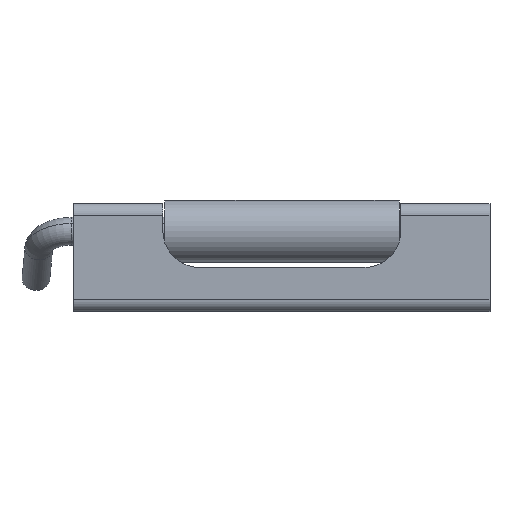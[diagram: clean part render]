
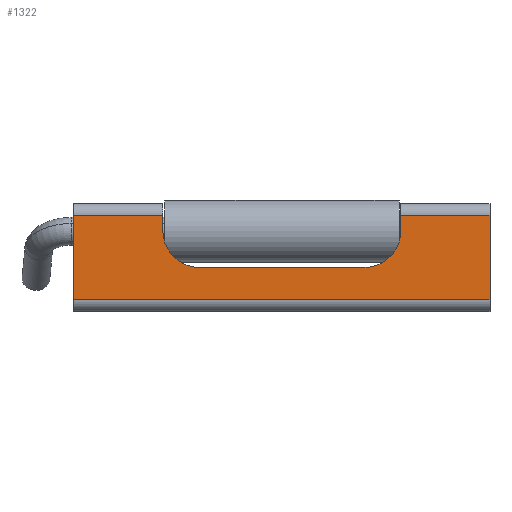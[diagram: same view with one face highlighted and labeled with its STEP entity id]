
A CAD part, front view. The second image highlights one B-rep face of the part: STEP entity #1322.
In plain terms, the highlighted planar face has unit normal (0, -1, 0).
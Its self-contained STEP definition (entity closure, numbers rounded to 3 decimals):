
#1261 = VERTEX_POINT ( 'NONE', #4355 ) ;
#1263 = EDGE_CURVE ( 'NONE', #1264, #1261, #4354, .T. ) ;
#1264 = VERTEX_POINT ( 'NONE', #4350 ) ;
#1307 = VERTEX_POINT ( 'NONE', #4402 ) ;
#1308 = ORIENTED_EDGE ( 'NONE', *, *, #1309, .T. ) ;
#1309 = EDGE_CURVE ( 'NONE', #1307, #1310, #4465, .T. ) ;
#1310 = VERTEX_POINT ( 'NONE', #4461 ) ;
#1311 = ORIENTED_EDGE ( 'NONE', *, *, #1312, .T. ) ;
#1312 = EDGE_CURVE ( 'NONE', #1310, #1313, #4460, .T. ) ;
#1313 = VERTEX_POINT ( 'NONE', #4456 ) ;
#1314 = ORIENTED_EDGE ( 'NONE', *, *, #1315, .T. ) ;
#1315 = EDGE_CURVE ( 'NONE', #1313, #1316, #4455, .T. ) ;
#1316 = VERTEX_POINT ( 'NONE', #4450 ) ;
#1317 = ORIENTED_EDGE ( 'NONE', *, *, #1318, .T. ) ;
#1318 = EDGE_CURVE ( 'NONE', #1316, #1319, #4449, .T. ) ;
#1319 = VERTEX_POINT ( 'NONE', #4445 ) ;
#1320 = ORIENTED_EDGE ( 'NONE', *, *, #1321, .T. ) ;
#1321 = EDGE_CURVE ( 'NONE', #1319, #1264, #4444, .T. ) ;
#1322 = ADVANCED_FACE ( 'NONE', ( #4440 ), #4439, .F. ) ;
#1323 = EDGE_LOOP ( 'NONE', ( #1324, #1325, #1328, #1331, #1334, #1308, #1311, #1314, #1317, #1320 ) ) ;
#1324 = ORIENTED_EDGE ( 'NONE', *, *, #1263, .T. ) ;
#1325 = ORIENTED_EDGE ( 'NONE', *, *, #1326, .T. ) ;
#1326 = EDGE_CURVE ( 'NONE', #1261, #1327, #4495, .T. ) ;
#1327 = VERTEX_POINT ( 'NONE', #4491 ) ;
#1328 = ORIENTED_EDGE ( 'NONE', *, *, #1329, .F. ) ;
#1329 = EDGE_CURVE ( 'NONE', #1330, #1327, #4490, .T. ) ;
#1330 = VERTEX_POINT ( 'NONE', #4486 ) ;
#1331 = ORIENTED_EDGE ( 'NONE', *, *, #1332, .T. ) ;
#1332 = EDGE_CURVE ( 'NONE', #1330, #1333, #4485, .T. ) ;
#1333 = VERTEX_POINT ( 'NONE', #4481 ) ;
#1334 = ORIENTED_EDGE ( 'NONE', *, *, #1335, .T. ) ;
#1335 = EDGE_CURVE ( 'NONE', #1333, #1307, #4480, .T. ) ;
#4350 = CARTESIAN_POINT ( 'NONE',  ( 0., 0., 20.8 ) ) ;
#4351 = DIRECTION ( 'NONE',  ( 0., 0., -1. ) ) ;
#4352 = VECTOR ( 'NONE', #4351, 1000. ) ;
#4353 = CARTESIAN_POINT ( 'NONE',  ( 0., 0., 2.5 ) ) ;
#4354 = LINE ( 'NONE', #4353, #4352 ) ;
#4355 = CARTESIAN_POINT ( 'NONE',  ( 0., 0., 2.5 ) ) ;
#4401 = CARTESIAN_POINT ( 'NONE',  ( 62.6, 0., 17.5 ) ) ;
#4402 = CARTESIAN_POINT ( 'NONE',  ( 70.6, 0., 17.5 ) ) ;
#4435 = DIRECTION ( 'NONE',  ( 0., 0., 1. ) ) ;
#4436 = DIRECTION ( 'NONE',  ( 0., 1., 0. ) ) ;
#4437 = AXIS2_PLACEMENT_3D ( 'NONE', #4438, #4436, #4435 ) ;
#4438 = CARTESIAN_POINT ( 'NONE',  ( 0., 0., 2.5 ) ) ;
#4439 = PLANE ( 'NONE',  #4437 ) ;
#4440 = FACE_OUTER_BOUND ( 'NONE', #1323, .T. ) ;
#4441 = DIRECTION ( 'NONE',  ( -1., 0., 0. ) ) ;
#4442 = VECTOR ( 'NONE', #4441, 1000. ) ;
#4443 = CARTESIAN_POINT ( 'NONE',  ( 0., 0., 20.8 ) ) ;
#4444 = LINE ( 'NONE', #4443, #4442 ) ;
#4445 = CARTESIAN_POINT ( 'NONE',  ( 19.2, 0., 20.8 ) ) ;
#4446 = DIRECTION ( 'NONE',  ( 0., 0., 1. ) ) ;
#4447 = VECTOR ( 'NONE', #4446, 1000. ) ;
#4448 = CARTESIAN_POINT ( 'NONE',  ( 19.2, 0., 23.3 ) ) ;
#4449 = LINE ( 'NONE', #4448, #4447 ) ;
#4450 = CARTESIAN_POINT ( 'NONE',  ( 19.2, 0., 17.5 ) ) ;
#4451 = DIRECTION ( 'NONE',  ( 0., 0., 1. ) ) ;
#4452 = DIRECTION ( 'NONE',  ( 0., 1., 0. ) ) ;
#4453 = CARTESIAN_POINT ( 'NONE',  ( 27.2, 0., 17.5 ) ) ;
#4454 = AXIS2_PLACEMENT_3D ( 'NONE', #4453, #4452, #4451 ) ;
#4455 = CIRCLE ( 'NONE', #4454, 8. ) ;
#4456 = CARTESIAN_POINT ( 'NONE',  ( 27.2, 0., 9.5 ) ) ;
#4457 = DIRECTION ( 'NONE',  ( -1., 0., 0. ) ) ;
#4458 = VECTOR ( 'NONE', #4457, 1000. ) ;
#4459 = CARTESIAN_POINT ( 'NONE',  ( 62.6, 0., 9.5 ) ) ;
#4460 = LINE ( 'NONE', #4459, #4458 ) ;
#4461 = CARTESIAN_POINT ( 'NONE',  ( 62.6, 0., 9.5 ) ) ;
#4462 = DIRECTION ( 'NONE',  ( 0., 0., -1. ) ) ;
#4463 = DIRECTION ( 'NONE',  ( 0., 1., 0. ) ) ;
#4464 = AXIS2_PLACEMENT_3D ( 'NONE', #4401, #4463, #4462 ) ;
#4465 = CIRCLE ( 'NONE', #4464, 8. ) ;
#4477 = DIRECTION ( 'NONE',  ( 0., 0., -1. ) ) ;
#4478 = VECTOR ( 'NONE', #4477, 1000. ) ;
#4479 = CARTESIAN_POINT ( 'NONE',  ( 70.6, 0., 17.5 ) ) ;
#4480 = LINE ( 'NONE', #4479, #4478 ) ;
#4481 = CARTESIAN_POINT ( 'NONE',  ( 70.6, 0., 20.8 ) ) ;
#4482 = DIRECTION ( 'NONE',  ( -1., 0., 0. ) ) ;
#4483 = VECTOR ( 'NONE', #4482, 1000. ) ;
#4484 = CARTESIAN_POINT ( 'NONE',  ( 70.6, 0., 20.8 ) ) ;
#4485 = LINE ( 'NONE', #4484, #4483 ) ;
#4486 = CARTESIAN_POINT ( 'NONE',  ( 89.8, 0., 20.8 ) ) ;
#4487 = DIRECTION ( 'NONE',  ( 0., 0., -1. ) ) ;
#4488 = VECTOR ( 'NONE', #4487, 1000. ) ;
#4489 = CARTESIAN_POINT ( 'NONE',  ( 89.8, 0., 2.5 ) ) ;
#4490 = LINE ( 'NONE', #4489, #4488 ) ;
#4491 = CARTESIAN_POINT ( 'NONE',  ( 89.8, 0., 2.5 ) ) ;
#4492 = DIRECTION ( 'NONE',  ( 1., 0., 0. ) ) ;
#4493 = VECTOR ( 'NONE', #4492, 1000. ) ;
#4494 = CARTESIAN_POINT ( 'NONE',  ( 89.8, 0., 2.5 ) ) ;
#4495 = LINE ( 'NONE', #4494, #4493 ) ;
